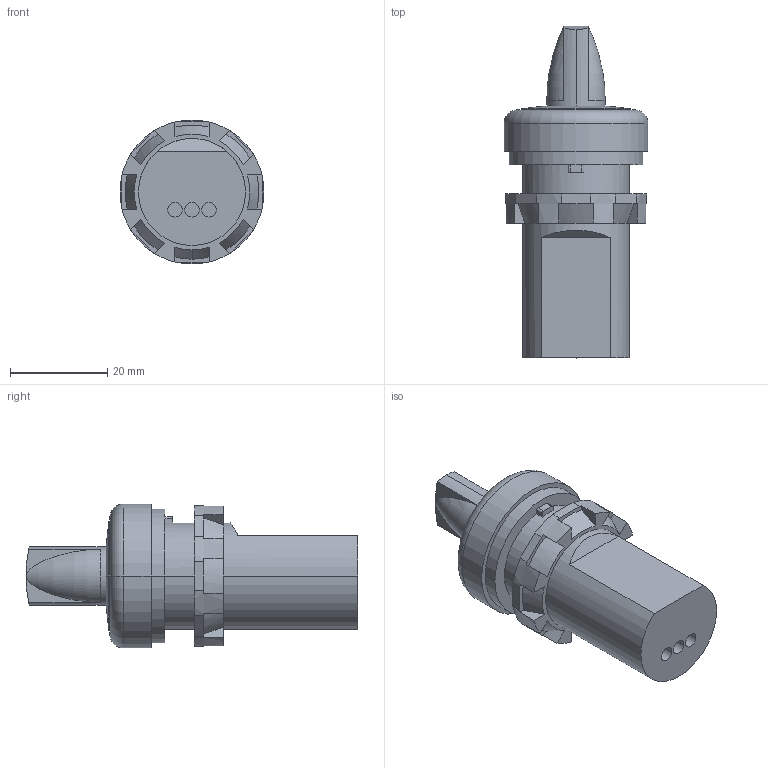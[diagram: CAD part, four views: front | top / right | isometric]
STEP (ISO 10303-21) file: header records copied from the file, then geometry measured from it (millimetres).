
FILE_DESCRIPTION (( 'STEP AP214' ), '1' );
FILE_NAME ('ZF_STEP_E6_xDMxxxx-xxxx_A18.STEP', '2018-08-23T12:18:43', ( 'Pizzato Elettrica' ), ( 'Microsoft' ), 'SwSTEP 2.0', 'SolidWorks 2014', '' );
FILE_SCHEMA (( 'AUTOMOTIVE_DESIGN' ));
Length unit declared in the file: millimetre
Products named in the file (3): ZF_STEP_VE_GFx2xA_21008; ZF_STEP_E6_xDMxxxx-xxxx_A13; ZF_STEP_E6_xDMxxxx-xxxx_A18
Assembly tree (2 placements, depth 2):
  ZF_STEP_E6_xDMxxxx-xxxx_A18
    ZF_STEP_E6_xDMxxxx-xxxx_A13
    ZF_STEP_VE_GFx2xA_21008
Bounding box: 29.6 x 68.23 x 29.6 mm (x, y, z)
Volume: 24855.9 mm3; surface area: 7248.8 mm2
Topology: 2 solids, 2 shells, 95 faces, 249 edges, 164 vertices
Faces by surface type: plane 49, cylinder 29, cone 9, torus 6, sphere 2
Entity records: 3421 total; most frequent: CARTESIAN_POINT 674, DIRECTION 533, ORIENTED_EDGE 498, EDGE_CURVE 249, AXIS2_PLACEMENT_3D 207, VERTEX_POINT 164, LINE 119, VECTOR 119
